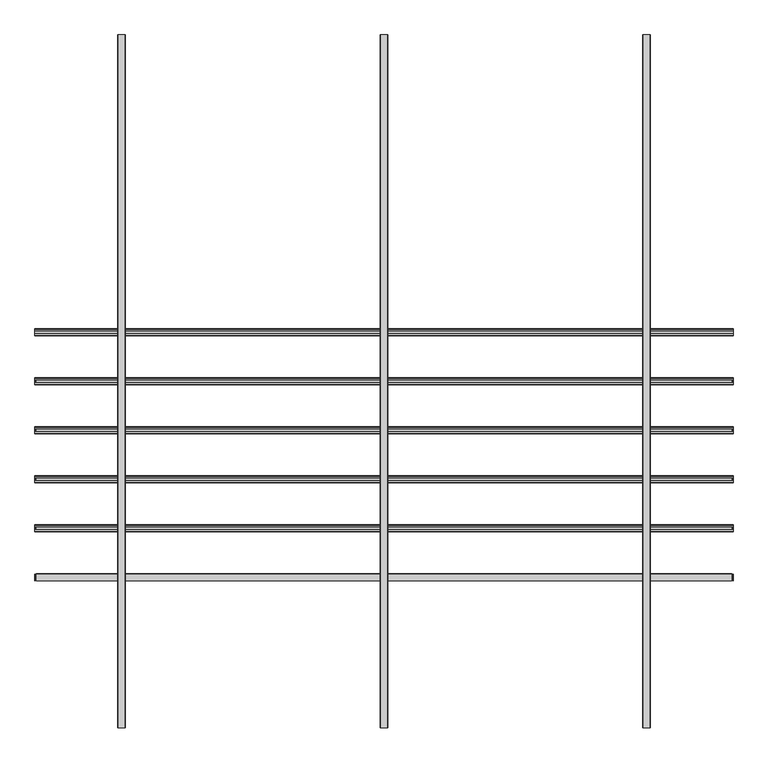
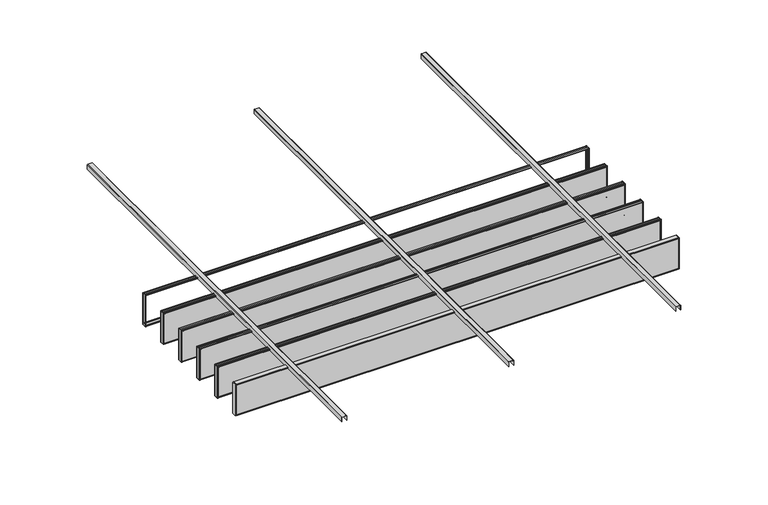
"""IFC4 building model written with IfcOpenShell, lengths in millimetres: proxy geometry, durlum_POLYLAM : durlum_POLYLAM 40 RV-L6."""

from ifc_helpers import new_model, si_unit, point, frame, frame_2d, origin, place, context, project, spatial, polyline, circle_curve, trimmed, segment, composite_curve, outline, extrude, source, transform, mapped, element, save
from ifc_brep_helpers import plane_surface, cylinder_surface, advanced_brep


def generic_models_77b5902f(model_context):
    return source(origin(), model_context, "Body", "SolidModel", [
        advanced_brep(
        [(1995.0, 298.0, 2016.9), (1995.0, 288.0, 2016.9), (1995.0, 288.0, 2015.9), (1995.0, 299.0, 2015.9), (1995.0, 299.0, 1717.9), (1995.0, 261.0, 1717.9), (1995.0, 261.0, 2015.8155735), (1995.0, 272.0, 2015.8155735), (1995.0, 272.0, 2016.9), (1995.0, 262.0, 2016.9), (1995.0, 260.0, 2014.9), (1995.0, 260.0, 1718.9), (1995.0, 262.0, 1716.9), (1995.0, 298.0, 1716.9), (1995.0, 300.0, 1718.9), (1995.0, 300.0, 2014.9), (-1995.0, 298.0, 2016.9), (-1995.0, 300.0, 2014.9), (-1995.0, 300.0, 1718.9), (-1995.0, 298.0, 1716.9), (-1995.0, 262.0, 1716.9), (-1995.0, 260.0, 1718.9), (-1995.0, 260.0, 2014.9), (-1995.0, 262.0, 2016.9), (-1995.0, 272.0, 2016.9), (-1995.0, 272.0, 2015.8155735), (-1995.0, 261.0, 2015.8155735), (-1995.0, 261.0, 1717.9), (-1995.0, 299.0, 1717.9), (-1995.0, 299.0, 2015.9), (-1995.0, 288.0, 2015.9), (-1995.0, 288.0, 2016.9), (-1986.5, 299.0, 2008.4), (1986.5, 299.0, 2008.4), (1986.5, 299.0, 1725.4), (-1986.5, 299.0, 1725.4), (1986.5, 261.0, 2008.4), (-1986.5, 261.0, 2008.4), (-1986.5, 261.0, 1725.4), (1986.5, 261.0, 1725.4), (-1986.5, 260.0, 2008.4), (1986.5, 260.0, 2008.4), (1986.5, 260.0, 1725.4), (-1986.5, 260.0, 1725.4), (1986.5, 300.0, 2008.4), (-1986.5, 300.0, 2008.4), (-1986.5, 300.0, 1725.4), (1986.5, 300.0, 1725.4)],
        [
            (0, 1),
            (1, 2),
            (2, 3),
            (3, 4),
            (4, 5),
            (5, 6),
            (6, 7),
            (7, 8),
            (8, 9),
            (9, 10, circle_curve(frame((1995.0, 262.0, 2014.9), z_axis=(1.0, 0.0, 0.0), x_axis=(0.0, 1.0, 0.0)), 2.0)),
            (10, 11),
            (11, 12, circle_curve(frame((1995.0, 262.0, 1718.9), z_axis=(1.0, 0.0, 0.0), x_axis=(0.0, 1.0, 0.0)), 2.0)),
            (12, 13),
            (13, 14, circle_curve(frame((1995.0, 298.0, 1718.9), z_axis=(1.0, 0.0, 0.0), x_axis=(0.0, 1.0, 0.0)), 2.0)),
            (14, 15),
            (15, 0, circle_curve(frame((1995.0, 298.0, 2014.9), z_axis=(1.0, 0.0, 0.0), x_axis=(0.0, 1.0, 0.0)), 2.0)),
            (16, 17, circle_curve(frame((-1995.0, 298.0, 2014.9), z_axis=(-1.0, 0.0, 0.0), x_axis=(0.0, 1.0, 0.0)), 2.0)),
            (17, 18),
            (18, 19, circle_curve(frame((-1995.0, 298.0, 1718.9), z_axis=(-1.0, 0.0, 0.0), x_axis=(0.0, 1.0, 0.0)), 2.0)),
            (19, 20),
            (20, 21, circle_curve(frame((-1995.0, 262.0, 1718.9), z_axis=(-1.0, 0.0, 0.0), x_axis=(0.0, 1.0, 0.0)), 2.0)),
            (21, 22),
            (22, 23, circle_curve(frame((-1995.0, 262.0, 2014.9), z_axis=(-1.0, 0.0, 0.0), x_axis=(0.0, 1.0, 0.0)), 2.0)),
            (23, 24),
            (24, 25),
            (25, 26),
            (26, 27),
            (27, 28),
            (28, 29),
            (29, 30),
            (30, 31),
            (31, 16),
            (0, 16),
            (31, 1),
            (30, 2),
            (29, 3),
            (28, 4),
            (32, 33),
            (33, 34),
            (34, 35),
            (35, 32),
            (27, 5),
            (26, 6),
            (36, 37),
            (37, 38),
            (38, 39),
            (39, 36),
            (25, 7),
            (24, 8),
            (23, 9),
            (10, 22),
            (21, 11),
            (40, 41),
            (41, 42),
            (42, 43),
            (43, 40),
            (12, 20),
            (19, 13),
            (14, 18),
            (17, 15),
            (44, 45),
            (45, 46),
            (46, 47),
            (47, 44),
            (44, 33),
            (32, 45),
            (36, 41),
            (40, 37),
            (35, 46),
            (43, 38),
            (34, 47),
            (42, 39),
        ],
        [
            plane_surface(frame((1995.0, 288.0, 2016.9), z_axis=(1.0, 0.0, 0.0), x_axis=(0.0, -1.0, 0.0))),
            plane_surface(frame((-1995.0, 288.0, 2016.9), z_axis=(-1.0, 0.0, 0.0), x_axis=(0.0, 1.0, 0.0))),
            plane_surface(frame((1995.0, 298.0, 2016.9), z_axis=(0.0, 0.0, 1.0), x_axis=(-1.0, 0.0, 0.0))),
            plane_surface(frame((1995.0, 288.0, 2016.9), z_axis=(0.0, -1.0, 0.0), x_axis=(-1.0, 0.0, 0.0))),
            plane_surface(frame((1995.0, 288.0, 2015.9), z_axis=(0.0, 0.0, -1.0), x_axis=(-1.0, 0.0, 0.0))),
            plane_surface(frame((1995.0, 299.0, 2015.9), z_axis=(0.0, -1.0, 0.0), x_axis=(-1.0, 0.0, 0.0))),
            plane_surface(frame((1995.0, 299.0, 1717.9), z_axis=(0.0, 0.0, 1.0), x_axis=(-1.0, 0.0, 0.0))),
            plane_surface(frame((1995.0, 261.0, 1717.9), z_axis=(0.0, 1.0, 0.0), x_axis=(-1.0, 0.0, 0.0))),
            plane_surface(frame((1995.0, 261.0, 2015.8155735), z_axis=(0.0, 0.0, -1.0), x_axis=(-1.0, 0.0, 0.0))),
            plane_surface(frame((1995.0, 272.0, 2015.8155735), z_axis=(0.0, 1.0, 0.0), x_axis=(-1.0, 0.0, 0.0))),
            plane_surface(frame((1995.0, 272.0, 2016.9), z_axis=(0.0, 0.0, 1.0), x_axis=(-1.0, 0.0, 0.0))),
            plane_surface(frame((1995.0, 260.0, 2014.9), z_axis=(0.0, -1.0, 0.0), x_axis=(-1.0, 0.0, 0.0))),
            plane_surface(frame((1995.0, 262.0, 1716.9), z_axis=(0.0, 0.0, -1.0), x_axis=(-1.0, 0.0, 0.0))),
            plane_surface(frame((1995.0, 300.0, 1718.9), z_axis=(0.0, 1.0, 0.0), x_axis=(-1.0, 0.0, 0.0))),
            cylinder_surface(frame((-1995.0, 262.0, 2014.9), z_axis=(1.0, 0.0, 0.0), x_axis=(0.0, 1.0, 0.0)), 2.0),
            cylinder_surface(frame((-1995.0, 262.0, 1718.9), z_axis=(1.0, 0.0, 0.0), x_axis=(0.0, 1.0, 0.0)), 2.0),
            cylinder_surface(frame((-1995.0, 298.0, 1718.9), z_axis=(1.0, 0.0, 0.0), x_axis=(0.0, 1.0, 0.0)), 2.0),
            cylinder_surface(frame((-1995.0, 298.0, 2014.9), z_axis=(1.0, 0.0, 0.0), x_axis=(0.0, 1.0, 0.0)), 2.0),
            plane_surface(frame((1986.5, 260.0, 2008.4), z_axis=(0.0, 0.0, -1.0), x_axis=(0.0, 1.0, 0.0))),
            plane_surface(frame((-1986.5, 260.0, 2008.4), z_axis=(1.0, 0.0, 0.0), x_axis=(0.0, 1.0, 0.0))),
            plane_surface(frame((-1986.5, 260.0, 1725.4), z_axis=(0.0, 0.0, 1.0), x_axis=(0.0, 1.0, 0.0))),
            plane_surface(frame((1986.5, 260.0, 1725.4), z_axis=(-1.0, 0.0, 0.0), x_axis=(0.0, 1.0, 0.0))),
        ],
        [
            (0, [[1, 2, 3, 4, 5, 6, 7, 8, 9, 10, 11, 12, 13, 14, 15, 16]]),
            (1, [[17, 18, 19, 20, 21, 22, 23, 24, 25, 26, 27, 28, 29, 30, 31, 32]]),
            (2, [[-1, 33, -32, 34]]),
            (3, [[-2, -34, -31, 35]]),
            (4, [[-3, -35, -30, 36]]),
            (5, [[-4, -36, -29, 37], [38, 39, 40, 41]]),
            (6, [[-5, -37, -28, 42]]),
            (7, [[-6, -42, -27, 43], [44, 45, 46, 47]]),
            (8, [[-7, -43, -26, 48]]),
            (9, [[-8, -48, -25, 49]]),
            (10, [[-9, -49, -24, 50]]),
            (11, [[-11, 51, -22, 52], [53, 54, 55, 56]]),
            (12, [[-13, 57, -20, 58]]),
            (13, [[-15, 59, -18, 60], [61, 62, 63, 64]]),
            (14, [[-10, -50, -23, -51]]),
            (15, [[-12, -52, -21, -57]]),
            (16, [[-14, -58, -19, -59]]),
            (17, [[-16, -60, -17, -33]]),
            (18, [[65, -38, 66, -61]]),
            (18, [[67, -53, 68, -44]]),
            (19, [[-66, -41, 69, -62]]),
            (19, [[-68, -56, 70, -45]]),
            (20, [[-69, -40, 71, -63]]),
            (20, [[-70, -55, 72, -46]]),
            (21, [[-65, -64, -71, -39]]),
            (21, [[-67, -47, -72, -54]]),
        ],
    ),
        extrude(outline(composite_curve([segment(polyline([(2005.0, 22.5), (2047.0, 22.5)]), True, "CONTINUOUS"), segment(trimmed(circle_curve(frame_2d((2047.0, 19.5)), 3.0), [point((2047.0, 22.5))], [point((2050.0, 19.5))], False, "CARTESIAN"), True, "CONTINUOUS"), segment(polyline([(2050.0, 19.5), (2050.0, -19.5)]), True, "CONTINUOUS"), segment(trimmed(circle_curve(frame_2d((2047.0, -19.5)), 3.0), [point((2050.0, -19.5))], [point((2047.0, -22.5))], False, "CARTESIAN"), True, "CONTINUOUS"), segment(polyline([(2047.0, -22.5), (2005.0, -22.5), (2005.0, -21.0), (2047.0, -21.0)]), True, "CONTINUOUS"), segment(trimmed(circle_curve(frame_2d((2047.0, -19.5)), 1.5), [point((2047.0, -21.0))], [point((2048.5, -19.5))], True, "CARTESIAN"), True, "CONTINUOUS"), segment(polyline([(2048.5, -19.5), (2048.5, 19.5)]), True, "CONTINUOUS"), segment(trimmed(circle_curve(frame_2d((2047.0, 19.5)), 1.5), [point((2048.5, 19.5))], [point((2047.0, 21.0))], True, "CARTESIAN"), True, "CONTINUOUS"), segment(polyline([(2047.0, 21.0), (2005.0, 21.0), (2005.0, 22.5)]), True, "CONTINUOUS")], self_intersect=False)), frame((0.0, -1980.0, 0.0), z_axis=(0.0, 1.0, 0.0), x_axis=(0.0, 0.0, 1.0)), (0.0, 0.0, 1.0), 3960.0),
        extrude(outline(composite_curve([segment(polyline([(2005.0, -1477.5), (2047.0, -1477.5)]), True, "CONTINUOUS"), segment(trimmed(circle_curve(frame_2d((2047.0, -1480.5)), 3.0), [point((2047.0, -1477.5))], [point((2050.0, -1480.5))], False, "CARTESIAN"), True, "CONTINUOUS"), segment(polyline([(2050.0, -1480.5), (2050.0, -1519.5)]), True, "CONTINUOUS"), segment(trimmed(circle_curve(frame_2d((2047.0, -1519.5)), 3.0), [point((2050.0, -1519.5))], [point((2047.0, -1522.5))], False, "CARTESIAN"), True, "CONTINUOUS"), segment(polyline([(2047.0, -1522.5), (2005.0, -1522.5), (2005.0, -1521.0), (2047.0, -1521.0)]), True, "CONTINUOUS"), segment(trimmed(circle_curve(frame_2d((2047.0, -1519.5)), 1.5), [point((2047.0, -1521.0))], [point((2048.5, -1519.5))], True, "CARTESIAN"), True, "CONTINUOUS"), segment(polyline([(2048.5, -1519.5), (2048.5, -1480.5)]), True, "CONTINUOUS"), segment(trimmed(circle_curve(frame_2d((2047.0, -1480.5)), 1.5), [point((2048.5, -1480.5))], [point((2047.0, -1479.0))], True, "CARTESIAN"), True, "CONTINUOUS"), segment(polyline([(2047.0, -1479.0), (2005.0, -1479.0), (2005.0, -1477.5)]), True, "CONTINUOUS")], self_intersect=False)), frame((0.0, -1980.0, 0.0), z_axis=(0.0, 1.0, 0.0), x_axis=(0.0, 0.0, 1.0)), (0.0, 0.0, 1.0), 3960.0),
        extrude(outline(composite_curve([segment(polyline([(2005.0, 1522.5), (2047.0, 1522.5)]), True, "CONTINUOUS"), segment(trimmed(circle_curve(frame_2d((2047.0, 1519.5)), 3.0), [point((2047.0, 1522.5))], [point((2050.0, 1519.5))], False, "CARTESIAN"), True, "CONTINUOUS"), segment(polyline([(2050.0, 1519.5), (2050.0, 1480.5)]), True, "CONTINUOUS"), segment(trimmed(circle_curve(frame_2d((2047.0, 1480.5)), 3.0), [point((2050.0, 1480.5))], [point((2047.0, 1477.5))], False, "CARTESIAN"), True, "CONTINUOUS"), segment(polyline([(2047.0, 1477.5), (2005.0, 1477.5), (2005.0, 1479.0), (2047.0, 1479.0)]), True, "CONTINUOUS"), segment(trimmed(circle_curve(frame_2d((2047.0, 1480.5)), 1.5), [point((2047.0, 1479.0))], [point((2048.5, 1480.5))], True, "CARTESIAN"), True, "CONTINUOUS"), segment(polyline([(2048.5, 1480.5), (2048.5, 1519.5)]), True, "CONTINUOUS"), segment(trimmed(circle_curve(frame_2d((2047.0, 1519.5)), 1.5), [point((2048.5, 1519.5))], [point((2047.0, 1521.0))], True, "CARTESIAN"), True, "CONTINUOUS"), segment(polyline([(2047.0, 1521.0), (2005.0, 1521.0), (2005.0, 1522.5)]), True, "CONTINUOUS")], self_intersect=False)), frame((0.0, -1980.0, 0.0), z_axis=(0.0, 1.0, 0.0), x_axis=(0.0, 0.0, 1.0)), (0.0, 0.0, 1.0), 3960.0),
        extrude(outline(polyline([(1993.0, 19.0), (1995.0, 19.0), (1995.0, -19.0), (1993.0, -19.0), (1993.0, 19.0)])), frame((0.0, 0.0, 1717.9), z_axis=(0.0, 0.0, 1.0), x_axis=(1.0, 0.0, 0.0)), (0.0, 0.0, 1.0), 298.0),
        extrude(outline(polyline([(-1995.0, 19.0), (-1993.0, 19.0), (-1993.0, -19.0), (-1995.0, -19.0), (-1995.0, 19.0)])), frame((0.0, 0.0, 1717.9), z_axis=(0.0, 0.0, 1.0), x_axis=(1.0, 0.0, 0.0)), (0.0, 0.0, 1.0), 298.0),
        extrude(outline(polyline([(1986.5, 19.0), (1986.5, -19.0), (-1986.5, -19.0), (-1986.5, 19.0), (1986.5, 19.0)])), frame((0.0, 0.0, 1717.9), z_axis=(0.0, 0.0, 1.0), x_axis=(1.0, 0.0, 0.0)), (0.0, 0.0, 1.0), 298.0),
        extrude(outline(polyline([(1986.5, 19.0), (-1986.5, 19.0), (-1986.5, 20.0), (1986.5, 20.0), (1986.5, 19.0)])), frame((0.0, 0.0, 1725.4), z_axis=(0.0, 0.0, 1.0), x_axis=(1.0, 0.0, 0.0)), (0.0, 0.0, 1.0), 283.0),
        extrude(outline(polyline([(1986.5, -20.0), (-1986.5, -20.0), (-1986.5, -19.0), (1986.5, -19.0), (1986.5, -20.0)])), frame((0.0, 0.0, 1725.4), z_axis=(0.0, 0.0, 1.0), x_axis=(1.0, 0.0, 0.0)), (0.0, 0.0, 1.0), 283.0),
        advanced_brep(
        [(1995.0, 18.0, 2016.9), (1995.0, 8.0, 2016.9), (1995.0, 8.0, 2015.9), (1995.0, 19.0, 2015.9), (1995.0, 19.0, 1717.9), (1995.0, -19.0, 1717.9), (1995.0, -19.0, 2015.8155735), (1995.0, -8.0, 2015.8155735), (1995.0, -8.0, 2016.9), (1995.0, -18.0, 2016.9), (1995.0, -20.0, 2014.9), (1995.0, -20.0, 1718.9), (1995.0, -18.0, 1716.9), (1995.0, 18.0, 1716.9), (1995.0, 20.0, 1718.9), (1995.0, 20.0, 2014.9), (-1995.0, 18.0, 2016.9), (-1995.0, 20.0, 2014.9), (-1995.0, 20.0, 1718.9), (-1995.0, 18.0, 1716.9), (-1995.0, -18.0, 1716.9), (-1995.0, -20.0, 1718.9), (-1995.0, -20.0, 2014.9), (-1995.0, -18.0, 2016.9), (-1995.0, -8.0, 2016.9), (-1995.0, -8.0, 2015.8155735), (-1995.0, -19.0, 2015.8155735), (-1995.0, -19.0, 1717.9), (-1995.0, 19.0, 1717.9), (-1995.0, 19.0, 2015.9), (-1995.0, 8.0, 2015.9), (-1995.0, 8.0, 2016.9), (-1986.5, 19.0, 2008.4), (1986.5, 19.0, 2008.4), (1986.5, 19.0, 1725.4), (-1986.5, 19.0, 1725.4), (1986.5, -19.0, 2008.4), (-1986.5, -19.0, 2008.4), (-1986.5, -19.0, 1725.4), (1986.5, -19.0, 1725.4), (-1986.5, -20.0, 2008.4), (1986.5, -20.0, 2008.4), (1986.5, -20.0, 1725.4), (-1986.5, -20.0, 1725.4), (1986.5, 20.0, 2008.4), (-1986.5, 20.0, 2008.4), (-1986.5, 20.0, 1725.4), (1986.5, 20.0, 1725.4)],
        [
            (0, 1),
            (1, 2),
            (2, 3),
            (3, 4),
            (4, 5),
            (5, 6),
            (6, 7),
            (7, 8),
            (8, 9),
            (9, 10, circle_curve(frame((1995.0, -18.0, 2014.9), z_axis=(1.0, 0.0, 0.0), x_axis=(0.0, 1.0, 0.0)), 2.0)),
            (10, 11),
            (11, 12, circle_curve(frame((1995.0, -18.0, 1718.9), z_axis=(1.0, 0.0, 0.0), x_axis=(0.0, 1.0, 0.0)), 2.0)),
            (12, 13),
            (13, 14, circle_curve(frame((1995.0, 18.0, 1718.9), z_axis=(1.0, 0.0, 0.0), x_axis=(0.0, 1.0, 0.0)), 2.0)),
            (14, 15),
            (15, 0, circle_curve(frame((1995.0, 18.0, 2014.9), z_axis=(1.0, 0.0, 0.0), x_axis=(0.0, 1.0, 0.0)), 2.0)),
            (16, 17, circle_curve(frame((-1995.0, 18.0, 2014.9), z_axis=(-1.0, 0.0, 0.0), x_axis=(0.0, 1.0, 0.0)), 2.0)),
            (17, 18),
            (18, 19, circle_curve(frame((-1995.0, 18.0, 1718.9), z_axis=(-1.0, 0.0, 0.0), x_axis=(0.0, 1.0, 0.0)), 2.0)),
            (19, 20),
            (20, 21, circle_curve(frame((-1995.0, -18.0, 1718.9), z_axis=(-1.0, 0.0, 0.0), x_axis=(0.0, 1.0, 0.0)), 2.0)),
            (21, 22),
            (22, 23, circle_curve(frame((-1995.0, -18.0, 2014.9), z_axis=(-1.0, 0.0, 0.0), x_axis=(0.0, 1.0, 0.0)), 2.0)),
            (23, 24),
            (24, 25),
            (25, 26),
            (26, 27),
            (27, 28),
            (28, 29),
            (29, 30),
            (30, 31),
            (31, 16),
            (0, 16),
            (31, 1),
            (30, 2),
            (29, 3),
            (28, 4),
            (32, 33),
            (33, 34),
            (34, 35),
            (35, 32),
            (27, 5),
            (26, 6),
            (36, 37),
            (37, 38),
            (38, 39),
            (39, 36),
            (25, 7),
            (24, 8),
            (23, 9),
            (10, 22),
            (21, 11),
            (40, 41),
            (41, 42),
            (42, 43),
            (43, 40),
            (12, 20),
            (19, 13),
            (14, 18),
            (17, 15),
            (44, 45),
            (45, 46),
            (46, 47),
            (47, 44),
            (44, 33),
            (32, 45),
            (36, 41),
            (40, 37),
            (35, 46),
            (43, 38),
            (34, 47),
            (42, 39),
        ],
        [
            plane_surface(frame((1995.0, 8.0, 2016.9), z_axis=(1.0, 0.0, 0.0), x_axis=(0.0, -1.0, 0.0))),
            plane_surface(frame((-1995.0, 8.0, 2016.9), z_axis=(-1.0, 0.0, 0.0), x_axis=(0.0, 1.0, 0.0))),
            plane_surface(frame((1995.0, 18.0, 2016.9), z_axis=(0.0, 0.0, 1.0), x_axis=(-1.0, 0.0, 0.0))),
            plane_surface(frame((1995.0, 8.0, 2016.9), z_axis=(0.0, -1.0, 0.0), x_axis=(-1.0, 0.0, 0.0))),
            plane_surface(frame((1995.0, 8.0, 2015.9), z_axis=(0.0, 0.0, -1.0), x_axis=(-1.0, 0.0, 0.0))),
            plane_surface(frame((1995.0, 19.0, 2015.9), z_axis=(0.0, -1.0, 0.0), x_axis=(-1.0, 0.0, 0.0))),
            plane_surface(frame((1995.0, 19.0, 1717.9), z_axis=(0.0, 0.0, 1.0), x_axis=(-1.0, 0.0, 0.0))),
            plane_surface(frame((1995.0, -19.0, 1717.9), z_axis=(0.0, 1.0, 0.0), x_axis=(-1.0, 0.0, 0.0))),
            plane_surface(frame((1995.0, -19.0, 2015.8155735), z_axis=(0.0, 0.0, -1.0), x_axis=(-1.0, 0.0, 0.0))),
            plane_surface(frame((1995.0, -8.0, 2015.8155735), z_axis=(0.0, 1.0, 0.0), x_axis=(-1.0, 0.0, 0.0))),
            plane_surface(frame((1995.0, -8.0, 2016.9), z_axis=(0.0, 0.0, 1.0), x_axis=(-1.0, 0.0, 0.0))),
            plane_surface(frame((1995.0, -20.0, 2014.9), z_axis=(0.0, -1.0, 0.0), x_axis=(-1.0, 0.0, 0.0))),
            plane_surface(frame((1995.0, -18.0, 1716.9), z_axis=(0.0, 0.0, -1.0), x_axis=(-1.0, 0.0, 0.0))),
            plane_surface(frame((1995.0, 20.0, 1718.9), z_axis=(0.0, 1.0, 0.0), x_axis=(-1.0, 0.0, 0.0))),
            cylinder_surface(frame((-1995.0, -18.0, 2014.9), z_axis=(1.0, 0.0, 0.0), x_axis=(0.0, 1.0, 0.0)), 2.0),
            cylinder_surface(frame((-1995.0, -18.0, 1718.9), z_axis=(1.0, 0.0, 0.0), x_axis=(0.0, 1.0, 0.0)), 2.0),
            cylinder_surface(frame((-1995.0, 18.0, 1718.9), z_axis=(1.0, 0.0, 0.0), x_axis=(0.0, 1.0, 0.0)), 2.0),
            cylinder_surface(frame((-1995.0, 18.0, 2014.9), z_axis=(1.0, 0.0, 0.0), x_axis=(0.0, 1.0, 0.0)), 2.0),
            plane_surface(frame((1986.5, -20.0, 2008.4), z_axis=(0.0, 0.0, -1.0), x_axis=(0.0, 1.0, 0.0))),
            plane_surface(frame((-1986.5, -20.0, 2008.4), z_axis=(1.0, 0.0, 0.0), x_axis=(0.0, 1.0, 0.0))),
            plane_surface(frame((-1986.5, -20.0, 1725.4), z_axis=(0.0, 0.0, 1.0), x_axis=(0.0, 1.0, 0.0))),
            plane_surface(frame((1986.5, -20.0, 1725.4), z_axis=(-1.0, 0.0, 0.0), x_axis=(0.0, 1.0, 0.0))),
        ],
        [
            (0, [[1, 2, 3, 4, 5, 6, 7, 8, 9, 10, 11, 12, 13, 14, 15, 16]]),
            (1, [[17, 18, 19, 20, 21, 22, 23, 24, 25, 26, 27, 28, 29, 30, 31, 32]]),
            (2, [[-1, 33, -32, 34]]),
            (3, [[-2, -34, -31, 35]]),
            (4, [[-3, -35, -30, 36]]),
            (5, [[-4, -36, -29, 37], [38, 39, 40, 41]]),
            (6, [[-5, -37, -28, 42]]),
            (7, [[-6, -42, -27, 43], [44, 45, 46, 47]]),
            (8, [[-7, -43, -26, 48]]),
            (9, [[-8, -48, -25, 49]]),
            (10, [[-9, -49, -24, 50]]),
            (11, [[-11, 51, -22, 52], [53, 54, 55, 56]]),
            (12, [[-13, 57, -20, 58]]),
            (13, [[-15, 59, -18, 60], [61, 62, 63, 64]]),
            (14, [[-10, -50, -23, -51]]),
            (15, [[-12, -52, -21, -57]]),
            (16, [[-14, -58, -19, -59]]),
            (17, [[-16, -60, -17, -33]]),
            (18, [[65, -38, 66, -61]]),
            (18, [[67, -53, 68, -44]]),
            (19, [[-66, -41, 69, -62]]),
            (19, [[-68, -56, 70, -45]]),
            (20, [[-69, -40, 71, -63]]),
            (20, [[-70, -55, 72, -46]]),
            (21, [[-65, -64, -71, -39]]),
            (21, [[-67, -47, -72, -54]]),
        ],
    ),
        extrude(outline(polyline([(1993.0, -261.0), (1995.0, -261.0), (1995.0, -299.0), (1993.0, -299.0), (1993.0, -261.0)])), frame((0.0, 0.0, 1717.9), z_axis=(0.0, 0.0, 1.0), x_axis=(1.0, 0.0, 0.0)), (0.0, 0.0, 1.0), 298.0),
        extrude(outline(polyline([(-1995.0, -261.0), (-1993.0, -261.0), (-1993.0, -299.0), (-1995.0, -299.0), (-1995.0, -261.0)])), frame((0.0, 0.0, 1717.9), z_axis=(0.0, 0.0, 1.0), x_axis=(1.0, 0.0, 0.0)), (0.0, 0.0, 1.0), 298.0),
        extrude(outline(polyline([(1986.5, -261.0), (1986.5, -299.0), (-1986.5, -299.0), (-1986.5, -261.0), (1986.5, -261.0)])), frame((0.0, 0.0, 1717.9), z_axis=(0.0, 0.0, 1.0), x_axis=(1.0, 0.0, 0.0)), (0.0, 0.0, 1.0), 298.0),
        extrude(outline(polyline([(1986.5, -261.0), (-1986.5, -261.0), (-1986.5, -260.0), (1986.5, -260.0), (1986.5, -261.0)])), frame((0.0, 0.0, 1725.4), z_axis=(0.0, 0.0, 1.0), x_axis=(1.0, 0.0, 0.0)), (0.0, 0.0, 1.0), 283.0),
        extrude(outline(polyline([(1986.5, -300.0), (-1986.5, -300.0), (-1986.5, -299.0), (1986.5, -299.0), (1986.5, -300.0)])), frame((0.0, 0.0, 1725.4), z_axis=(0.0, 0.0, 1.0), x_axis=(1.0, 0.0, 0.0)), (0.0, 0.0, 1.0), 283.0),
        advanced_brep(
        [(1995.0, -262.0, 2016.9), (1995.0, -272.0, 2016.9), (1995.0, -272.0, 2015.9), (1995.0, -261.0, 2015.9), (1995.0, -261.0, 1717.9), (1995.0, -299.0, 1717.9), (1995.0, -299.0, 2015.8155735), (1995.0, -288.0, 2015.8155735), (1995.0, -288.0, 2016.9), (1995.0, -298.0, 2016.9), (1995.0, -300.0, 2014.9), (1995.0, -300.0, 1718.9), (1995.0, -298.0, 1716.9), (1995.0, -262.0, 1716.9), (1995.0, -260.0, 1718.9), (1995.0, -260.0, 2014.9), (-1995.0, -262.0, 2016.9), (-1995.0, -260.0, 2014.9), (-1995.0, -260.0, 1718.9), (-1995.0, -262.0, 1716.9), (-1995.0, -298.0, 1716.9), (-1995.0, -300.0, 1718.9), (-1995.0, -300.0, 2014.9), (-1995.0, -298.0, 2016.9), (-1995.0, -288.0, 2016.9), (-1995.0, -288.0, 2015.8155735), (-1995.0, -299.0, 2015.8155735), (-1995.0, -299.0, 1717.9), (-1995.0, -261.0, 1717.9), (-1995.0, -261.0, 2015.9), (-1995.0, -272.0, 2015.9), (-1995.0, -272.0, 2016.9), (-1986.5, -261.0, 2008.4), (1986.5, -261.0, 2008.4), (1986.5, -261.0, 1725.4), (-1986.5, -261.0, 1725.4), (1986.5, -299.0, 2008.4), (-1986.5, -299.0, 2008.4), (-1986.5, -299.0, 1725.4), (1986.5, -299.0, 1725.4), (-1986.5, -300.0, 2008.4), (1986.5, -300.0, 2008.4), (1986.5, -300.0, 1725.4), (-1986.5, -300.0, 1725.4), (1986.5, -260.0, 2008.4), (-1986.5, -260.0, 2008.4), (-1986.5, -260.0, 1725.4), (1986.5, -260.0, 1725.4)],
        [
            (0, 1),
            (1, 2),
            (2, 3),
            (3, 4),
            (4, 5),
            (5, 6),
            (6, 7),
            (7, 8),
            (8, 9),
            (9, 10, circle_curve(frame((1995.0, -298.0, 2014.9), z_axis=(1.0, 0.0, 0.0), x_axis=(0.0, 1.0, 0.0)), 2.0)),
            (10, 11),
            (11, 12, circle_curve(frame((1995.0, -298.0, 1718.9), z_axis=(1.0, 0.0, 0.0), x_axis=(0.0, 1.0, 0.0)), 2.0)),
            (12, 13),
            (13, 14, circle_curve(frame((1995.0, -262.0, 1718.9), z_axis=(1.0, 0.0, 0.0), x_axis=(0.0, 1.0, 0.0)), 2.0)),
            (14, 15),
            (15, 0, circle_curve(frame((1995.0, -262.0, 2014.9), z_axis=(1.0, 0.0, 0.0), x_axis=(0.0, 1.0, 0.0)), 2.0)),
            (16, 17, circle_curve(frame((-1995.0, -262.0, 2014.9), z_axis=(-1.0, 0.0, 0.0), x_axis=(0.0, 1.0, 0.0)), 2.0)),
            (17, 18),
            (18, 19, circle_curve(frame((-1995.0, -262.0, 1718.9), z_axis=(-1.0, 0.0, 0.0), x_axis=(0.0, 1.0, 0.0)), 2.0)),
            (19, 20),
            (20, 21, circle_curve(frame((-1995.0, -298.0, 1718.9), z_axis=(-1.0, 0.0, 0.0), x_axis=(0.0, 1.0, 0.0)), 2.0)),
            (21, 22),
            (22, 23, circle_curve(frame((-1995.0, -298.0, 2014.9), z_axis=(-1.0, 0.0, 0.0), x_axis=(0.0, 1.0, 0.0)), 2.0)),
            (23, 24),
            (24, 25),
            (25, 26),
            (26, 27),
            (27, 28),
            (28, 29),
            (29, 30),
            (30, 31),
            (31, 16),
            (0, 16),
            (31, 1),
            (30, 2),
            (29, 3),
            (28, 4),
            (32, 33),
            (33, 34),
            (34, 35),
            (35, 32),
            (27, 5),
            (26, 6),
            (36, 37),
            (37, 38),
            (38, 39),
            (39, 36),
            (25, 7),
            (24, 8),
            (23, 9),
            (10, 22),
            (21, 11),
            (40, 41),
            (41, 42),
            (42, 43),
            (43, 40),
            (12, 20),
            (19, 13),
            (14, 18),
            (17, 15),
            (44, 45),
            (45, 46),
            (46, 47),
            (47, 44),
            (44, 33),
            (32, 45),
            (36, 41),
            (40, 37),
            (35, 46),
            (43, 38),
            (34, 47),
            (42, 39),
        ],
        [
            plane_surface(frame((1995.0, -272.0, 2016.9), z_axis=(1.0, 0.0, 0.0), x_axis=(0.0, -1.0, 0.0))),
            plane_surface(frame((-1995.0, -272.0, 2016.9), z_axis=(-1.0, 0.0, 0.0), x_axis=(0.0, 1.0, 0.0))),
            plane_surface(frame((1995.0, -262.0, 2016.9), z_axis=(0.0, 0.0, 1.0), x_axis=(-1.0, 0.0, 0.0))),
            plane_surface(frame((1995.0, -272.0, 2016.9), z_axis=(0.0, -1.0, 0.0), x_axis=(-1.0, 0.0, 0.0))),
            plane_surface(frame((1995.0, -272.0, 2015.9), z_axis=(0.0, 0.0, -1.0), x_axis=(-1.0, 0.0, 0.0))),
            plane_surface(frame((1995.0, -261.0, 2015.9), z_axis=(0.0, -1.0, 0.0), x_axis=(-1.0, 0.0, 0.0))),
            plane_surface(frame((1995.0, -261.0, 1717.9), z_axis=(0.0, 0.0, 1.0), x_axis=(-1.0, 0.0, 0.0))),
            plane_surface(frame((1995.0, -299.0, 1717.9), z_axis=(0.0, 1.0, 0.0), x_axis=(-1.0, 0.0, 0.0))),
            plane_surface(frame((1995.0, -299.0, 2015.8155735), z_axis=(0.0, 0.0, -1.0), x_axis=(-1.0, 0.0, 0.0))),
            plane_surface(frame((1995.0, -288.0, 2015.8155735), z_axis=(0.0, 1.0, 0.0), x_axis=(-1.0, 0.0, 0.0))),
            plane_surface(frame((1995.0, -288.0, 2016.9), z_axis=(0.0, 0.0, 1.0), x_axis=(-1.0, 0.0, 0.0))),
            plane_surface(frame((1995.0, -300.0, 2014.9), z_axis=(0.0, -1.0, 0.0), x_axis=(-1.0, 0.0, 0.0))),
            plane_surface(frame((1995.0, -298.0, 1716.9), z_axis=(0.0, 0.0, -1.0), x_axis=(-1.0, 0.0, 0.0))),
            plane_surface(frame((1995.0, -260.0, 1718.9), z_axis=(0.0, 1.0, 0.0), x_axis=(-1.0, 0.0, 0.0))),
            cylinder_surface(frame((-1995.0, -298.0, 2014.9), z_axis=(1.0, 0.0, 0.0), x_axis=(0.0, 1.0, 0.0)), 2.0),
            cylinder_surface(frame((-1995.0, -298.0, 1718.9), z_axis=(1.0, 0.0, 0.0), x_axis=(0.0, 1.0, 0.0)), 2.0),
            cylinder_surface(frame((-1995.0, -262.0, 1718.9), z_axis=(1.0, 0.0, 0.0), x_axis=(0.0, 1.0, 0.0)), 2.0),
            cylinder_surface(frame((-1995.0, -262.0, 2014.9), z_axis=(1.0, 0.0, 0.0), x_axis=(0.0, 1.0, 0.0)), 2.0),
            plane_surface(frame((1986.5, -300.0, 2008.4), z_axis=(0.0, 0.0, -1.0), x_axis=(0.0, 1.0, 0.0))),
            plane_surface(frame((-1986.5, -300.0, 2008.4), z_axis=(1.0, 0.0, 0.0), x_axis=(0.0, 1.0, 0.0))),
            plane_surface(frame((-1986.5, -300.0, 1725.4), z_axis=(0.0, 0.0, 1.0), x_axis=(0.0, 1.0, 0.0))),
            plane_surface(frame((1986.5, -300.0, 1725.4), z_axis=(-1.0, 0.0, 0.0), x_axis=(0.0, 1.0, 0.0))),
        ],
        [
            (0, [[1, 2, 3, 4, 5, 6, 7, 8, 9, 10, 11, 12, 13, 14, 15, 16]]),
            (1, [[17, 18, 19, 20, 21, 22, 23, 24, 25, 26, 27, 28, 29, 30, 31, 32]]),
            (2, [[-1, 33, -32, 34]]),
            (3, [[-2, -34, -31, 35]]),
            (4, [[-3, -35, -30, 36]]),
            (5, [[-4, -36, -29, 37], [38, 39, 40, 41]]),
            (6, [[-5, -37, -28, 42]]),
            (7, [[-6, -42, -27, 43], [44, 45, 46, 47]]),
            (8, [[-7, -43, -26, 48]]),
            (9, [[-8, -48, -25, 49]]),
            (10, [[-9, -49, -24, 50]]),
            (11, [[-11, 51, -22, 52], [53, 54, 55, 56]]),
            (12, [[-13, 57, -20, 58]]),
            (13, [[-15, 59, -18, 60], [61, 62, 63, 64]]),
            (14, [[-10, -50, -23, -51]]),
            (15, [[-12, -52, -21, -57]]),
            (16, [[-14, -58, -19, -59]]),
            (17, [[-16, -60, -17, -33]]),
            (18, [[65, -38, 66, -61]]),
            (18, [[67, -53, 68, -44]]),
            (19, [[-66, -41, 69, -62]]),
            (19, [[-68, -56, 70, -45]]),
            (20, [[-69, -40, 71, -63]]),
            (20, [[-70, -55, 72, -46]]),
            (21, [[-65, -64, -71, -39]]),
            (21, [[-67, -47, -72, -54]]),
        ],
    ),
        extrude(outline(polyline([(1993.0, -541.0), (1995.0, -541.0), (1995.0, -579.0), (1993.0, -579.0), (1993.0, -541.0)])), frame((0.0, 0.0, 1717.9), z_axis=(0.0, 0.0, 1.0), x_axis=(1.0, 0.0, 0.0)), (0.0, 0.0, 1.0), 298.0),
        extrude(outline(polyline([(-1995.0, -541.0), (-1993.0, -541.0), (-1993.0, -579.0), (-1995.0, -579.0), (-1995.0, -541.0)])), frame((0.0, 0.0, 1717.9), z_axis=(0.0, 0.0, 1.0), x_axis=(1.0, 0.0, 0.0)), (0.0, 0.0, 1.0), 298.0),
        extrude(outline(polyline([(1986.5, -541.0), (1986.5, -579.0), (-1986.5, -579.0), (-1986.5, -541.0), (1986.5, -541.0)])), frame((0.0, 0.0, 1717.9), z_axis=(0.0, 0.0, 1.0), x_axis=(1.0, 0.0, 0.0)), (0.0, 0.0, 1.0), 298.0),
        extrude(outline(polyline([(1986.5, -541.0), (-1986.5, -541.0), (-1986.5, -540.0), (1986.5, -540.0), (1986.5, -541.0)])), frame((0.0, 0.0, 1725.4), z_axis=(0.0, 0.0, 1.0), x_axis=(1.0, 0.0, 0.0)), (0.0, 0.0, 1.0), 283.0),
        extrude(outline(polyline([(1986.5, -580.0), (-1986.5, -580.0), (-1986.5, -579.0), (1986.5, -579.0), (1986.5, -580.0)])), frame((0.0, 0.0, 1725.4), z_axis=(0.0, 0.0, 1.0), x_axis=(1.0, 0.0, 0.0)), (0.0, 0.0, 1.0), 283.0),
        advanced_brep(
        [(1995.0, -542.0, 2016.9), (1995.0, -552.0, 2016.9), (1995.0, -552.0, 2015.9), (1995.0, -541.0, 2015.9), (1995.0, -541.0, 1717.9), (1995.0, -579.0, 1717.9), (1995.0, -579.0, 2015.8155735), (1995.0, -568.0, 2015.8155735), (1995.0, -568.0, 2016.9), (1995.0, -578.0, 2016.9), (1995.0, -580.0, 2014.9), (1995.0, -580.0, 1718.9), (1995.0, -578.0, 1716.9), (1995.0, -542.0, 1716.9), (1995.0, -540.0, 1718.9), (1995.0, -540.0, 2014.9), (-1995.0, -542.0, 2016.9), (-1995.0, -540.0, 2014.9), (-1995.0, -540.0, 1718.9), (-1995.0, -542.0, 1716.9), (-1995.0, -578.0, 1716.9), (-1995.0, -580.0, 1718.9), (-1995.0, -580.0, 2014.9), (-1995.0, -578.0, 2016.9), (-1995.0, -568.0, 2016.9), (-1995.0, -568.0, 2015.8155735), (-1995.0, -579.0, 2015.8155735), (-1995.0, -579.0, 1717.9), (-1995.0, -541.0, 1717.9), (-1995.0, -541.0, 2015.9), (-1995.0, -552.0, 2015.9), (-1995.0, -552.0, 2016.9), (-1986.5, -541.0, 2008.4), (1986.5, -541.0, 2008.4), (1986.5, -541.0, 1725.4), (-1986.5, -541.0, 1725.4), (1986.5, -579.0, 2008.4), (-1986.5, -579.0, 2008.4), (-1986.5, -579.0, 1725.4), (1986.5, -579.0, 1725.4), (-1986.5, -580.0, 2008.4), (1986.5, -580.0, 2008.4), (1986.5, -580.0, 1725.4), (-1986.5, -580.0, 1725.4), (1986.5, -540.0, 2008.4), (-1986.5, -540.0, 2008.4), (-1986.5, -540.0, 1725.4), (1986.5, -540.0, 1725.4)],
        [
            (0, 1),
            (1, 2),
            (2, 3),
            (3, 4),
            (4, 5),
            (5, 6),
            (6, 7),
            (7, 8),
            (8, 9),
            (9, 10, circle_curve(frame((1995.0, -578.0, 2014.9), z_axis=(1.0, 0.0, 0.0), x_axis=(0.0, 1.0, 0.0)), 2.0)),
            (10, 11),
            (11, 12, circle_curve(frame((1995.0, -578.0, 1718.9), z_axis=(1.0, 0.0, 0.0), x_axis=(0.0, 1.0, 0.0)), 2.0)),
            (12, 13),
            (13, 14, circle_curve(frame((1995.0, -542.0, 1718.9), z_axis=(1.0, 0.0, 0.0), x_axis=(0.0, 1.0, 0.0)), 2.0)),
            (14, 15),
            (15, 0, circle_curve(frame((1995.0, -542.0, 2014.9), z_axis=(1.0, 0.0, 0.0), x_axis=(0.0, 1.0, 0.0)), 2.0)),
            (16, 17, circle_curve(frame((-1995.0, -542.0, 2014.9), z_axis=(-1.0, 0.0, 0.0), x_axis=(0.0, 1.0, 0.0)), 2.0)),
            (17, 18),
            (18, 19, circle_curve(frame((-1995.0, -542.0, 1718.9), z_axis=(-1.0, 0.0, 0.0), x_axis=(0.0, 1.0, 0.0)), 2.0)),
            (19, 20),
            (20, 21, circle_curve(frame((-1995.0, -578.0, 1718.9), z_axis=(-1.0, 0.0, 0.0), x_axis=(0.0, 1.0, 0.0)), 2.0)),
            (21, 22),
            (22, 23, circle_curve(frame((-1995.0, -578.0, 2014.9), z_axis=(-1.0, 0.0, 0.0), x_axis=(0.0, 1.0, 0.0)), 2.0)),
            (23, 24),
            (24, 25),
            (25, 26),
            (26, 27),
            (27, 28),
            (28, 29),
            (29, 30),
            (30, 31),
            (31, 16),
            (0, 16),
            (31, 1),
            (30, 2),
            (29, 3),
            (28, 4),
            (32, 33),
            (33, 34),
            (34, 35),
            (35, 32),
            (27, 5),
            (26, 6),
            (36, 37),
            (37, 38),
            (38, 39),
            (39, 36),
            (25, 7),
            (24, 8),
            (23, 9),
            (10, 22),
            (21, 11),
            (40, 41),
            (41, 42),
            (42, 43),
            (43, 40),
            (12, 20),
            (19, 13),
            (14, 18),
            (17, 15),
            (44, 45),
            (45, 46),
            (46, 47),
            (47, 44),
            (44, 33),
            (32, 45),
            (36, 41),
            (40, 37),
            (35, 46),
            (43, 38),
            (34, 47),
            (42, 39),
        ],
        [
            plane_surface(frame((1995.0, -552.0, 2016.9), z_axis=(1.0, 0.0, 0.0), x_axis=(0.0, -1.0, 0.0))),
            plane_surface(frame((-1995.0, -552.0, 2016.9), z_axis=(-1.0, 0.0, 0.0), x_axis=(0.0, 1.0, 0.0))),
            plane_surface(frame((1995.0, -542.0, 2016.9), z_axis=(0.0, 0.0, 1.0), x_axis=(-1.0, 0.0, 0.0))),
            plane_surface(frame((1995.0, -552.0, 2016.9), z_axis=(0.0, -1.0, 0.0), x_axis=(-1.0, 0.0, 0.0))),
            plane_surface(frame((1995.0, -552.0, 2015.9), z_axis=(0.0, 0.0, -1.0), x_axis=(-1.0, 0.0, 0.0))),
            plane_surface(frame((1995.0, -541.0, 2015.9), z_axis=(0.0, -1.0, 0.0), x_axis=(-1.0, 0.0, 0.0))),
            plane_surface(frame((1995.0, -541.0, 1717.9), z_axis=(0.0, 0.0, 1.0), x_axis=(-1.0, 0.0, 0.0))),
            plane_surface(frame((1995.0, -579.0, 1717.9), z_axis=(0.0, 1.0, 0.0), x_axis=(-1.0, 0.0, 0.0))),
            plane_surface(frame((1995.0, -579.0, 2015.8155735), z_axis=(0.0, 0.0, -1.0), x_axis=(-1.0, 0.0, 0.0))),
            plane_surface(frame((1995.0, -568.0, 2015.8155735), z_axis=(0.0, 1.0, 0.0), x_axis=(-1.0, 0.0, 0.0))),
            plane_surface(frame((1995.0, -568.0, 2016.9), z_axis=(0.0, 0.0, 1.0), x_axis=(-1.0, 0.0, 0.0))),
            plane_surface(frame((1995.0, -580.0, 2014.9), z_axis=(0.0, -1.0, 0.0), x_axis=(-1.0, 0.0, 0.0))),
            plane_surface(frame((1995.0, -578.0, 1716.9), z_axis=(0.0, 0.0, -1.0), x_axis=(-1.0, 0.0, 0.0))),
            plane_surface(frame((1995.0, -540.0, 1718.9), z_axis=(0.0, 1.0, 0.0), x_axis=(-1.0, 0.0, 0.0))),
            cylinder_surface(frame((-1995.0, -578.0, 2014.9), z_axis=(1.0, 0.0, 0.0), x_axis=(0.0, 1.0, 0.0)), 2.0),
            cylinder_surface(frame((-1995.0, -578.0, 1718.9), z_axis=(1.0, 0.0, 0.0), x_axis=(0.0, 1.0, 0.0)), 2.0),
            cylinder_surface(frame((-1995.0, -542.0, 1718.9), z_axis=(1.0, 0.0, 0.0), x_axis=(0.0, 1.0, 0.0)), 2.0),
            cylinder_surface(frame((-1995.0, -542.0, 2014.9), z_axis=(1.0, 0.0, 0.0), x_axis=(0.0, 1.0, 0.0)), 2.0),
            plane_surface(frame((1986.5, -580.0, 2008.4), z_axis=(0.0, 0.0, -1.0), x_axis=(0.0, 1.0, 0.0))),
            plane_surface(frame((-1986.5, -580.0, 2008.4), z_axis=(1.0, 0.0, 0.0), x_axis=(0.0, 1.0, 0.0))),
            plane_surface(frame((-1986.5, -580.0, 1725.4), z_axis=(0.0, 0.0, 1.0), x_axis=(0.0, 1.0, 0.0))),
            plane_surface(frame((1986.5, -580.0, 1725.4), z_axis=(-1.0, 0.0, 0.0), x_axis=(0.0, 1.0, 0.0))),
        ],
        [
            (0, [[1, 2, 3, 4, 5, 6, 7, 8, 9, 10, 11, 12, 13, 14, 15, 16]]),
            (1, [[17, 18, 19, 20, 21, 22, 23, 24, 25, 26, 27, 28, 29, 30, 31, 32]]),
            (2, [[-1, 33, -32, 34]]),
            (3, [[-2, -34, -31, 35]]),
            (4, [[-3, -35, -30, 36]]),
            (5, [[-4, -36, -29, 37], [38, 39, 40, 41]]),
            (6, [[-5, -37, -28, 42]]),
            (7, [[-6, -42, -27, 43], [44, 45, 46, 47]]),
            (8, [[-7, -43, -26, 48]]),
            (9, [[-8, -48, -25, 49]]),
            (10, [[-9, -49, -24, 50]]),
            (11, [[-11, 51, -22, 52], [53, 54, 55, 56]]),
            (12, [[-13, 57, -20, 58]]),
            (13, [[-15, 59, -18, 60], [61, 62, 63, 64]]),
            (14, [[-10, -50, -23, -51]]),
            (15, [[-12, -52, -21, -57]]),
            (16, [[-14, -58, -19, -59]]),
            (17, [[-16, -60, -17, -33]]),
            (18, [[65, -38, 66, -61]]),
            (18, [[67, -53, 68, -44]]),
            (19, [[-66, -41, 69, -62]]),
            (19, [[-68, -56, 70, -45]]),
            (20, [[-69, -40, 71, -63]]),
            (20, [[-70, -55, 72, -46]]),
            (21, [[-65, -64, -71, -39]]),
            (21, [[-67, -47, -72, -54]]),
        ],
    ),
        extrude(outline(polyline([(1993.0, -821.0), (1995.0, -821.0), (1995.0, -859.0), (1993.0, -859.0), (1993.0, -821.0)])), frame((0.0, 0.0, 1717.9), z_axis=(0.0, 0.0, 1.0), x_axis=(1.0, 0.0, 0.0)), (0.0, 0.0, 1.0), 298.0),
        extrude(outline(polyline([(-1995.0, -821.0), (-1993.0, -821.0), (-1993.0, -859.0), (-1995.0, -859.0), (-1995.0, -821.0)])), frame((0.0, 0.0, 1717.9), z_axis=(0.0, 0.0, 1.0), x_axis=(1.0, 0.0, 0.0)), (0.0, 0.0, 1.0), 298.0),
        extrude(outline(polyline([(1986.5, -821.0), (1986.5, -859.0), (-1986.5, -859.0), (-1986.5, -821.0), (1986.5, -821.0)])), frame((0.0, 0.0, 1717.9), z_axis=(0.0, 0.0, 1.0), x_axis=(1.0, 0.0, 0.0)), (0.0, 0.0, 1.0), 298.0),
        extrude(outline(polyline([(1986.5, -821.0), (-1986.5, -821.0), (-1986.5, -820.0), (1986.5, -820.0), (1986.5, -821.0)])), frame((0.0, 0.0, 1725.4), z_axis=(0.0, 0.0, 1.0), x_axis=(1.0, 0.0, 0.0)), (0.0, 0.0, 1.0), 283.0),
        extrude(outline(polyline([(1986.5, -860.0), (-1986.5, -860.0), (-1986.5, -859.0), (1986.5, -859.0), (1986.5, -860.0)])), frame((0.0, 0.0, 1725.4), z_axis=(0.0, 0.0, 1.0), x_axis=(1.0, 0.0, 0.0)), (0.0, 0.0, 1.0), 283.0),
        advanced_brep(
        [(1995.0, -822.0, 2016.9), (1995.0, -832.0, 2016.9), (1995.0, -832.0, 2015.9), (1995.0, -821.0, 2015.9), (1995.0, -821.0, 1717.9), (1995.0, -859.0, 1717.9), (1995.0, -859.0, 2015.8155735), (1995.0, -848.0, 2015.8155735), (1995.0, -848.0, 2016.9), (1995.0, -858.0, 2016.9), (1995.0, -860.0, 2014.9), (1995.0, -860.0, 1718.9), (1995.0, -858.0, 1716.9), (1995.0, -822.0, 1716.9), (1995.0, -820.0, 1718.9), (1995.0, -820.0, 2014.9), (-1995.0, -822.0, 2016.9), (-1995.0, -820.0, 2014.9), (-1995.0, -820.0, 1718.9), (-1995.0, -822.0, 1716.9), (-1995.0, -858.0, 1716.9), (-1995.0, -860.0, 1718.9), (-1995.0, -860.0, 2014.9), (-1995.0, -858.0, 2016.9), (-1995.0, -848.0, 2016.9), (-1995.0, -848.0, 2015.8155735), (-1995.0, -859.0, 2015.8155735), (-1995.0, -859.0, 1717.9), (-1995.0, -821.0, 1717.9), (-1995.0, -821.0, 2015.9), (-1995.0, -832.0, 2015.9), (-1995.0, -832.0, 2016.9), (-1986.5, -821.0, 2008.4), (1986.5, -821.0, 2008.4), (1986.5, -821.0, 1725.4), (-1986.5, -821.0, 1725.4), (1986.5, -859.0, 2008.4), (-1986.5, -859.0, 2008.4), (-1986.5, -859.0, 1725.4), (1986.5, -859.0, 1725.4), (-1986.5, -860.0, 2008.4), (1986.5, -860.0, 2008.4), (1986.5, -860.0, 1725.4), (-1986.5, -860.0, 1725.4), (1986.5, -820.0, 2008.4), (-1986.5, -820.0, 2008.4), (-1986.5, -820.0, 1725.4), (1986.5, -820.0, 1725.4)],
        [
            (0, 1),
            (1, 2),
            (2, 3),
            (3, 4),
            (4, 5),
            (5, 6),
            (6, 7),
            (7, 8),
            (8, 9),
            (9, 10, circle_curve(frame((1995.0, -858.0, 2014.9), z_axis=(1.0, 0.0, 0.0), x_axis=(0.0, 1.0, 0.0)), 2.0)),
            (10, 11),
            (11, 12, circle_curve(frame((1995.0, -858.0, 1718.9), z_axis=(1.0, 0.0, 0.0), x_axis=(0.0, 1.0, 0.0)), 2.0)),
            (12, 13),
            (13, 14, circle_curve(frame((1995.0, -822.0, 1718.9), z_axis=(1.0, 0.0, 0.0), x_axis=(0.0, 1.0, 0.0)), 2.0)),
            (14, 15),
            (15, 0, circle_curve(frame((1995.0, -822.0, 2014.9), z_axis=(1.0, 0.0, 0.0), x_axis=(0.0, 1.0, 0.0)), 2.0)),
            (16, 17, circle_curve(frame((-1995.0, -822.0, 2014.9), z_axis=(-1.0, 0.0, 0.0), x_axis=(0.0, 1.0, 0.0)), 2.0)),
            (17, 18),
            (18, 19, circle_curve(frame((-1995.0, -822.0, 1718.9), z_axis=(-1.0, 0.0, 0.0), x_axis=(0.0, 1.0, 0.0)), 2.0)),
            (19, 20),
            (20, 21, circle_curve(frame((-1995.0, -858.0, 1718.9), z_axis=(-1.0, 0.0, 0.0), x_axis=(0.0, 1.0, 0.0)), 2.0)),
            (21, 22),
            (22, 23, circle_curve(frame((-1995.0, -858.0, 2014.9), z_axis=(-1.0, 0.0, 0.0), x_axis=(0.0, 1.0, 0.0)), 2.0)),
            (23, 24),
            (24, 25),
            (25, 26),
            (26, 27),
            (27, 28),
            (28, 29),
            (29, 30),
            (30, 31),
            (31, 16),
            (0, 16),
            (31, 1),
            (30, 2),
            (29, 3),
            (28, 4),
            (32, 33),
            (33, 34),
            (34, 35),
            (35, 32),
            (27, 5),
            (26, 6),
            (36, 37),
            (37, 38),
            (38, 39),
            (39, 36),
            (25, 7),
            (24, 8),
            (23, 9),
            (10, 22),
            (21, 11),
            (40, 41),
            (41, 42),
            (42, 43),
            (43, 40),
            (12, 20),
            (19, 13),
            (14, 18),
            (17, 15),
            (44, 45),
            (45, 46),
            (46, 47),
            (47, 44),
            (44, 33),
            (32, 45),
            (36, 41),
            (40, 37),
            (35, 46),
            (43, 38),
            (34, 47),
            (42, 39),
        ],
        [
            plane_surface(frame((1995.0, -832.0, 2016.9), z_axis=(1.0, 0.0, 0.0), x_axis=(0.0, -1.0, 0.0))),
            plane_surface(frame((-1995.0, -832.0, 2016.9), z_axis=(-1.0, 0.0, 0.0), x_axis=(0.0, 1.0, 0.0))),
            plane_surface(frame((1995.0, -822.0, 2016.9), z_axis=(0.0, 0.0, 1.0), x_axis=(-1.0, 0.0, 0.0))),
            plane_surface(frame((1995.0, -832.0, 2016.9), z_axis=(0.0, -1.0, 0.0), x_axis=(-1.0, 0.0, 0.0))),
            plane_surface(frame((1995.0, -832.0, 2015.9), z_axis=(0.0, 0.0, -1.0), x_axis=(-1.0, 0.0, 0.0))),
            plane_surface(frame((1995.0, -821.0, 2015.9), z_axis=(0.0, -1.0, 0.0), x_axis=(-1.0, 0.0, 0.0))),
            plane_surface(frame((1995.0, -821.0, 1717.9), z_axis=(0.0, 0.0, 1.0), x_axis=(-1.0, 0.0, 0.0))),
            plane_surface(frame((1995.0, -859.0, 1717.9), z_axis=(0.0, 1.0, 0.0), x_axis=(-1.0, 0.0, 0.0))),
            plane_surface(frame((1995.0, -859.0, 2015.8155735), z_axis=(0.0, 0.0, -1.0), x_axis=(-1.0, 0.0, 0.0))),
            plane_surface(frame((1995.0, -848.0, 2015.8155735), z_axis=(0.0, 1.0, 0.0), x_axis=(-1.0, 0.0, 0.0))),
            plane_surface(frame((1995.0, -848.0, 2016.9), z_axis=(0.0, 0.0, 1.0), x_axis=(-1.0, 0.0, 0.0))),
            plane_surface(frame((1995.0, -860.0, 2014.9), z_axis=(0.0, -1.0, 0.0), x_axis=(-1.0, 0.0, 0.0))),
            plane_surface(frame((1995.0, -858.0, 1716.9), z_axis=(0.0, 0.0, -1.0), x_axis=(-1.0, 0.0, 0.0))),
            plane_surface(frame((1995.0, -820.0, 1718.9), z_axis=(0.0, 1.0, 0.0), x_axis=(-1.0, 0.0, 0.0))),
            cylinder_surface(frame((-1995.0, -858.0, 2014.9), z_axis=(1.0, 0.0, 0.0), x_axis=(0.0, 1.0, 0.0)), 2.0),
            cylinder_surface(frame((-1995.0, -858.0, 1718.9), z_axis=(1.0, 0.0, 0.0), x_axis=(0.0, 1.0, 0.0)), 2.0),
            cylinder_surface(frame((-1995.0, -822.0, 1718.9), z_axis=(1.0, 0.0, 0.0), x_axis=(0.0, 1.0, 0.0)), 2.0),
            cylinder_surface(frame((-1995.0, -822.0, 2014.9), z_axis=(1.0, 0.0, 0.0), x_axis=(0.0, 1.0, 0.0)), 2.0),
            plane_surface(frame((1986.5, -860.0, 2008.4), z_axis=(0.0, 0.0, -1.0), x_axis=(0.0, 1.0, 0.0))),
            plane_surface(frame((-1986.5, -860.0, 2008.4), z_axis=(1.0, 0.0, 0.0), x_axis=(0.0, 1.0, 0.0))),
            plane_surface(frame((-1986.5, -860.0, 1725.4), z_axis=(0.0, 0.0, 1.0), x_axis=(0.0, 1.0, 0.0))),
            plane_surface(frame((1986.5, -860.0, 1725.4), z_axis=(-1.0, 0.0, 0.0), x_axis=(0.0, 1.0, 0.0))),
        ],
        [
            (0, [[1, 2, 3, 4, 5, 6, 7, 8, 9, 10, 11, 12, 13, 14, 15, 16]]),
            (1, [[17, 18, 19, 20, 21, 22, 23, 24, 25, 26, 27, 28, 29, 30, 31, 32]]),
            (2, [[-1, 33, -32, 34]]),
            (3, [[-2, -34, -31, 35]]),
            (4, [[-3, -35, -30, 36]]),
            (5, [[-4, -36, -29, 37], [38, 39, 40, 41]]),
            (6, [[-5, -37, -28, 42]]),
            (7, [[-6, -42, -27, 43], [44, 45, 46, 47]]),
            (8, [[-7, -43, -26, 48]]),
            (9, [[-8, -48, -25, 49]]),
            (10, [[-9, -49, -24, 50]]),
            (11, [[-11, 51, -22, 52], [53, 54, 55, 56]]),
            (12, [[-13, 57, -20, 58]]),
            (13, [[-15, 59, -18, 60], [61, 62, 63, 64]]),
            (14, [[-10, -50, -23, -51]]),
            (15, [[-12, -52, -21, -57]]),
            (16, [[-14, -58, -19, -59]]),
            (17, [[-16, -60, -17, -33]]),
            (18, [[65, -38, 66, -61]]),
            (18, [[67, -53, 68, -44]]),
            (19, [[-66, -41, 69, -62]]),
            (19, [[-68, -56, 70, -45]]),
            (20, [[-69, -40, 71, -63]]),
            (20, [[-70, -55, 72, -46]]),
            (21, [[-65, -64, -71, -39]]),
            (21, [[-67, -47, -72, -54]]),
        ],
    ),
        extrude(outline(polyline([(1993.0, -1101.0), (1995.0, -1101.0), (1995.0, -1139.0), (1993.0, -1139.0), (1993.0, -1101.0)])), frame((0.0, 0.0, 1717.9), z_axis=(0.0, 0.0, 1.0), x_axis=(1.0, 0.0, 0.0)), (0.0, 0.0, 1.0), 298.0),
        extrude(outline(polyline([(-1995.0, -1101.0), (-1993.0, -1101.0), (-1993.0, -1139.0), (-1995.0, -1139.0), (-1995.0, -1101.0)])), frame((0.0, 0.0, 1717.9), z_axis=(0.0, 0.0, 1.0), x_axis=(1.0, 0.0, 0.0)), (0.0, 0.0, 1.0), 298.0),
        extrude(outline(polyline([(1986.5, -1101.0), (1986.5, -1139.0), (-1986.5, -1139.0), (-1986.5, -1101.0), (1986.5, -1101.0)])), frame((0.0, 0.0, 1717.9), z_axis=(0.0, 0.0, 1.0), x_axis=(1.0, 0.0, 0.0)), (0.0, 0.0, 1.0), 298.0),
        extrude(outline(polyline([(1986.5, -1101.0), (-1986.5, -1101.0), (-1986.5, -1100.0), (1986.5, -1100.0), (1986.5, -1101.0)])), frame((0.0, 0.0, 1725.4), z_axis=(0.0, 0.0, 1.0), x_axis=(1.0, 0.0, 0.0)), (0.0, 0.0, 1.0), 283.0),
        extrude(outline(polyline([(1986.5, -1140.0), (-1986.5, -1140.0), (-1986.5, -1139.0), (1986.5, -1139.0), (1986.5, -1140.0)])), frame((0.0, 0.0, 1725.4), z_axis=(0.0, 0.0, 1.0), x_axis=(1.0, 0.0, 0.0)), (0.0, 0.0, 1.0), 283.0),
    ])


if __name__ == "__main__":
    model = new_model("IFC4")
    model_context = context("Model", 3, world=origin())
    ifc_project = project(units=[si_unit("LENGTHUNIT", "METRE", prefix="MILLI")], contexts=[model_context])
    site = spatial("IfcSite", under=ifc_project)
    building = spatial("IfcBuilding", under=site)
    placement = place(None, origin())
    generic_models_shape = generic_models_77b5902f(model_context)
    element("IfcBuildingElementProxy", 1, Name="durlum_POLYLAM : durlum_POLYLAM 40 RV-L6", ObjectType="durlum_POLYLAM : durlum_POLYLAM 40 RV-L6", at=placement, inside=building, context=model_context, shape_type="MappedRepresentation", body=[
        mapped(generic_models_shape, transform((0.0, 0.0, 0.0), x_axis=(1.0, 0.0, 0.0), y_axis=(0.0, 1.0, 0.0), z_axis=(0.0, 0.0, 1.0))),
    ])
    save(model, "model.ifc")
